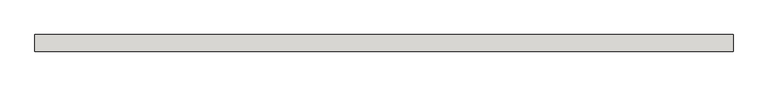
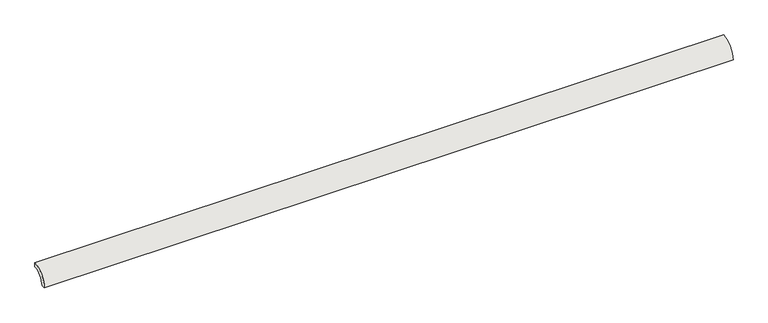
"""IFC4 building model written with IfcOpenShell, lengths in millimetres: slab geometry, ROSA GRES_183 : Pieza 183_Pietro_White_Anti-Slip."""

from ifc_helpers import new_model, si_unit, point, frame, frame_2d, origin, origin_2d, place, context, project, spatial, polyline, circle_curve, trimmed, segment, composite_curve, outline, extrude, source, transform, mapped, element, save


def slab_938e37d3(model_context):
    return source(origin(), model_context, "Body", "SweptSolid", [
        extrude(outline(composite_curve([segment(polyline([(0.0, 40.0), (0.0, 30.0265886)]), True, "CONTINUOUS"), segment(trimmed(circle_curve(frame_2d((-0.0044453, 0.0044453)), 30.0221435), [point((0.0, 30.0265886))], [point((-30.0265886, 0.0))], True, "CARTESIAN"), True, "CONTINUOUS"), segment(polyline([(-30.0265886, 0.0), (-40.0, 0.0)]), True, "CONTINUOUS"), segment(trimmed(circle_curve(origin_2d(), 40.0), [point((-40.0, 0.0))], [point((0.0, 40.0))], False, "CARTESIAN"), True, "CONTINUOUS")], self_intersect=False)), frame((0.0, 0.0, 0.0), z_axis=(1.0, 0.0, 0.0), x_axis=(0.0, 1.0, 0.0)), (0.0, 0.0, 1.0), 1677.8743806),
    ])


if __name__ == "__main__":
    model = new_model("IFC4")
    model_context = context("Model", 3, world=origin())
    ifc_project = project(units=[si_unit("LENGTHUNIT", "METRE", prefix="MILLI")], contexts=[model_context])
    site = spatial("IfcSite", under=ifc_project)
    building = spatial("IfcBuilding", under=site)
    placement = place(None, origin())
    slab_shape = slab_938e37d3(model_context)
    element("IfcSlab", 1, ObjectType="ROSA GRES_183 : Pieza 183_Pietro_White_Anti-Slip", at=placement, inside=building, context=model_context, shape_type="MappedRepresentation", body=[
        mapped(slab_shape, transform((0.0, 0.0, 0.0), x_axis=(1.0, 0.0, 0.0), y_axis=(0.0, 1.0, 0.0), z_axis=(0.0, 0.0, 1.0))),
    ])
    save(model, "model.ifc")
